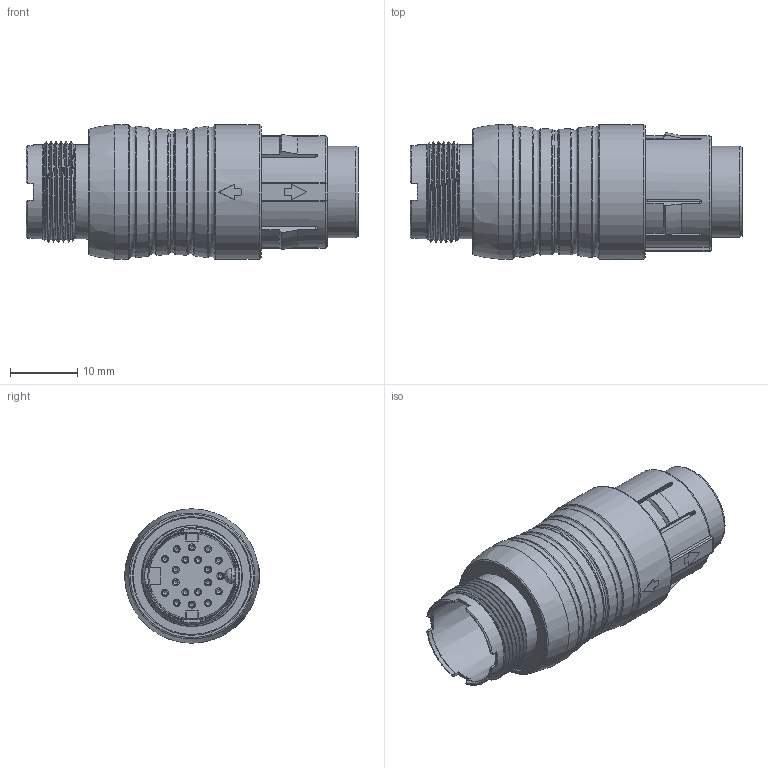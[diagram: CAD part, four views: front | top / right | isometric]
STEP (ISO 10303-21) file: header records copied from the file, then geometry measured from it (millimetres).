
FILE_DESCRIPTION(/* description */ (''),/* implementation_level */ '2;1');
FILE_NAME(/* name */ '99 4841 00 19 001_00-19po. Kupplungsstecker.stp',/* time_stamp */ '2017-07-31T10:58:50+02:00',/* author */ (''),/* organization */ (''),/* preprocessor_version */ 'ST-DEVELOPER v16',/* originating_system */ 'SIEMENS PLM Software NX 11.0',/* authorisation */ '');
FILE_SCHEMA (('AUTOMOTIVE_DESIGN { 1 0 10303 214 3 1 1 1 }'));
Length unit declared in the file: millimetre
Products named in the file (1): smag1CC4F0DAxtgh
Bounding box: 49.4 x 20.05 x 20 mm (x, y, z)
Volume: 6121.8 mm3; surface area: 7453.5 mm2
Topology: 1 solids, 37 shells, 672 faces, 1798 edges, 1182 vertices
Faces by surface type: cylinder 285, plane 243, cone 85, torus 36, sphere 19, bspline 4
Full cylindrical faces by diameter (mm): 0.7 x19, 1 x19, 1.05 x38, 1.3 x36, 1.35 x36, 12.1 x1, 13.6 x1, 14 x2, 18.147 x1, 19.999 x1, 20 x1
Entity records: 21535 total; most frequent: CARTESIAN_POINT 6911, DIRECTION 3099, ORIENTED_EDGE 2612, EDGE_CURVE 1306, AXIS2_PLACEMENT_3D 1296, EDGE_LOOP 1013, VERTEX_POINT 988, FACE_BOUND 684
